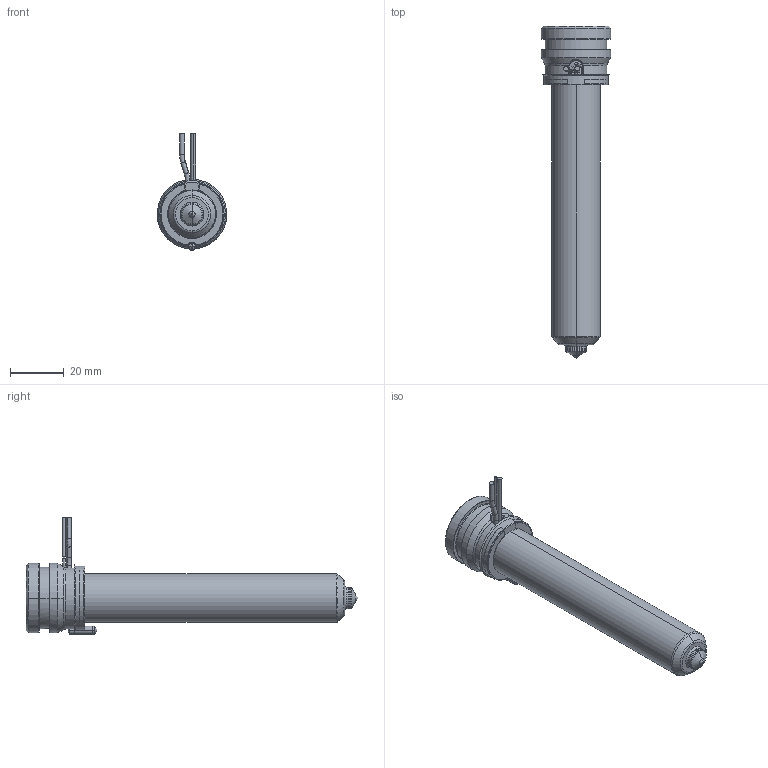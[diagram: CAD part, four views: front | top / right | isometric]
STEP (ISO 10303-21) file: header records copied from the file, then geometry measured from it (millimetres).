
FILE_DESCRIPTION((''),'2;1');
FILE_NAME('MPN-08-24-TS8-106-A','2026-02-05T11:52:55',('UPTIO'),('Thermoplay S.p.A.'),'CREO PARAMETRIC BY PTC INC, 2023494','CREO PARAMETRIC BY PTC INC, 2023494','');
FILE_SCHEMA(('CONFIG_CONTROL_DESIGN','SHAPE_APPEARANCE_LAYERS_GROUPS'));
Length unit declared in the file: millimetre
Products named in the file (1): MPN-08-24-TS8-106-A
Bounding box: 26 x 124 x 43.5 mm (x, y, z)
Volume: 24421.1 mm3; surface area: 30868.6 mm2
Topology: 2 solids, 5 shells, 548 faces, 1437 edges, 892 vertices
Faces by surface type: cylinder 178, plane 146, bspline 82, torus 64, cone 60, sphere 12, extrusion 6
Entity records: 28935 total; most frequent: CARTESIAN_POINT 12762, ORIENTED_EDGE 2854, DIRECTION 2539, EDGE_CURVE 1427, AXIS2_PLACEMENT_3D 992, VERTEX_POINT 892, EDGE_LOOP 575, VECTOR 555
